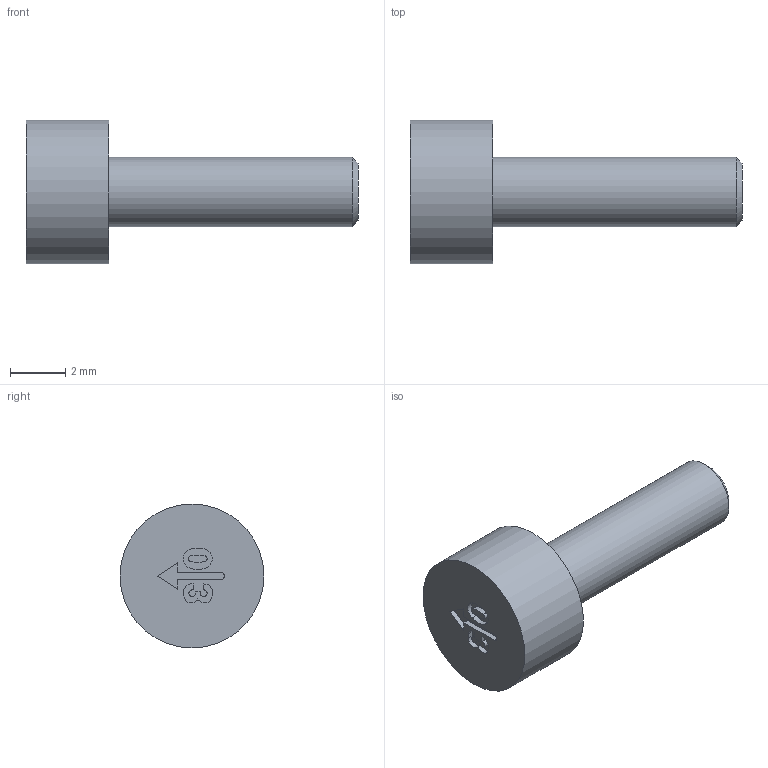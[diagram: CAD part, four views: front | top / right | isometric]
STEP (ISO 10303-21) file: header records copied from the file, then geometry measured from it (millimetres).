
FILE_DESCRIPTION( ( 'STEP AP203' ), ' ' );
FILE_NAME( 'p:/temp/worker_131/3720_3968/app_90_12017012509215931614734260eae72_000000_00_00_000000/format_0/YON 10.stp', '2017-01-25T08:21:59', ( '' ), ( '' ), ' ', 'PARTsolutions', ' ' );
FILE_SCHEMA( ( 'CONFIG_CONTROL_DESIGN' ) );
Length unit declared in the file: millimetre
Products named in the file (1): _YON 101
Bounding box: 12 x 5.2 x 5.2 mm (x, y, z)
Volume: 107.4 mm3; surface area: 164.1 mm2
Topology: 1 solids, 1 shells, 42 faces, 104 edges, 69 vertices
Faces by surface type: plane 24, cylinder 17, cone 1
Full cylindrical faces by diameter (mm): 2.5 x1, 5.2 x1
Entity records: 1284 total; most frequent: DIRECTION 222, CARTESIAN_POINT 213, ORIENTED_EDGE 202, EDGE_CURVE 101, AXIS2_PLACEMENT_3D 78, VERTEX_POINT 69, LINE 66, VECTOR 66
